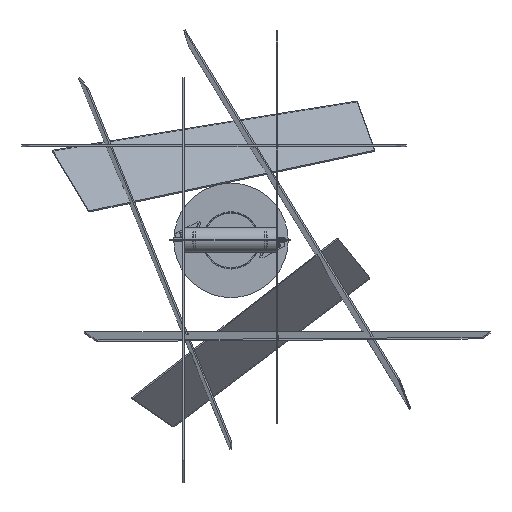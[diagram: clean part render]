
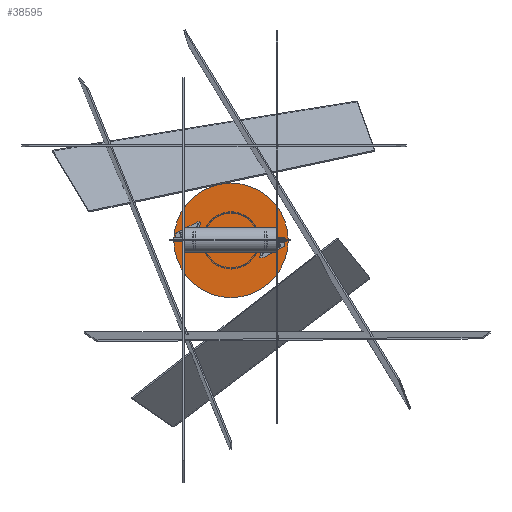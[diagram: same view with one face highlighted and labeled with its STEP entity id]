
A CAD part, front view. The second image highlights one B-rep face of the part: STEP entity #38595.
In plain terms, the highlighted planar face has unit normal (0, -1, 0).
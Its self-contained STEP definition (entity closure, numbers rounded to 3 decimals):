
#641 = DIRECTION ( 'NONE',  ( 1., 0., 0. ) ) ;
#1526 = VERTEX_POINT ( 'NONE', #2391 ) ;
#1601 = VERTEX_POINT ( 'NONE', #23940 ) ;
#2391 = CARTESIAN_POINT ( 'NONE',  ( -7.845, 1028.539, 34.847 ) ) ;
#2481 = CARTESIAN_POINT ( 'NONE',  ( -227.845, 1028.539, 34.847 ) ) ;
#2595 = AXIS2_PLACEMENT_3D ( 'NONE', #8925, #4545, #641 ) ;
#3303 = CIRCLE ( 'NONE', #36234, 5.25 ) ;
#3808 = AXIS2_PLACEMENT_3D ( 'NONE', #58109, #35011, #57515 ) ;
#3910 = VERTEX_POINT ( 'NONE', #57396 ) ;
#4545 = DIRECTION ( 'NONE',  ( 0., 1., 0. ) ) ;
#4698 = EDGE_CURVE ( 'NONE', #1601, #3910, #27366, .T. ) ;
#5387 = CARTESIAN_POINT ( 'NONE',  ( -184.845, 1028.539, 34.847 ) ) ;
#5847 = EDGE_CURVE ( 'NONE', #3910, #1601, #7972, .T. ) ;
#6331 = CARTESIAN_POINT ( 'NONE',  ( -46.845, 1028.539, 34.847 ) ) ;
#6702 = EDGE_CURVE ( 'NONE', #37576, #27388, #3303, .T. ) ;
#7389 = DIRECTION ( 'NONE',  ( 1., 0., 0. ) ) ;
#7972 = CIRCLE ( 'NONE', #26840, 4.5 ) ;
#8770 = AXIS2_PLACEMENT_3D ( 'NONE', #38862, #26217, #44188 ) ;
#8861 = DIRECTION ( 'NONE',  ( 1., 0., 0. ) ) ;
#8925 = CARTESIAN_POINT ( 'NONE',  ( -184.845, 1028.539, 34.847 ) ) ;
#10600 = EDGE_CURVE ( 'NONE', #40936, #16758, #37917, .T. ) ;
#12109 = EDGE_CURVE ( 'NONE', #34138, #45432, #43054, .T. ) ;
#12796 = FACE_OUTER_BOUND ( 'NONE', #55056, .T. ) ;
#12896 = CIRCLE ( 'NONE', #42913, 4. ) ;
#13996 = DIRECTION ( 'NONE',  ( 1., 0., 0. ) ) ;
#14495 = AXIS2_PLACEMENT_3D ( 'NONE', #47384, #16415, #20523 ) ;
#15467 = ORIENTED_EDGE ( 'NONE', *, *, #51252, .F. ) ;
#15626 = EDGE_CURVE ( 'NONE', #27388, #37576, #58194, .T. ) ;
#16210 = DIRECTION ( 'NONE',  ( 1., 0., 0. ) ) ;
#16415 = DIRECTION ( 'NONE',  ( 0., 1., 0. ) ) ;
#16758 = VERTEX_POINT ( 'NONE', #30489 ) ;
#17362 = EDGE_CURVE ( 'NONE', #39439, #1526, #25754, .T. ) ;
#17752 = PLANE ( 'NONE',  #35082 ) ;
#18411 = CARTESIAN_POINT ( 'NONE',  ( -129.845, 1028.539, 34.847 ) ) ;
#20523 = DIRECTION ( 'NONE',  ( 1., 0., 0. ) ) ;
#20884 = DIRECTION ( 'NONE',  ( 0., 1., 0. ) ) ;
#21187 = DIRECTION ( 'NONE',  ( 0., 1., 0. ) ) ;
#22338 = ORIENTED_EDGE ( 'NONE', *, *, #17362, .F. ) ;
#23508 = ORIENTED_EDGE ( 'NONE', *, *, #4698, .T. ) ;
#23940 = CARTESIAN_POINT ( 'NONE',  ( -125.345, 1028.539, 34.847 ) ) ;
#25754 = CIRCLE ( 'NONE', #8770, 110. ) ;
#25755 = FACE_BOUND ( 'NONE', #31033, .T. ) ;
#26042 = CARTESIAN_POINT ( 'NONE',  ( -117.845, 1028.539, 34.847 ) ) ;
#26217 = DIRECTION ( 'NONE',  ( 0., 1., 0. ) ) ;
#26219 = ORIENTED_EDGE ( 'NONE', *, *, #15626, .T. ) ;
#26840 = AXIS2_PLACEMENT_3D ( 'NONE', #18411, #54440, #13996 ) ;
#26924 = DIRECTION ( 'NONE',  ( 1., 0., 0. ) ) ;
#27138 = ORIENTED_EDGE ( 'NONE', *, *, #12109, .T. ) ;
#27366 = CIRCLE ( 'NONE', #3808, 4.5 ) ;
#27388 = VERTEX_POINT ( 'NONE', #33250 ) ;
#27426 = ORIENTED_EDGE ( 'NONE', *, *, #5847, .T. ) ;
#28328 = ORIENTED_EDGE ( 'NONE', *, *, #44964, .T. ) ;
#28368 = DIRECTION ( 'NONE',  ( 1., 0., 0. ) ) ;
#29310 = AXIS2_PLACEMENT_3D ( 'NONE', #5387, #41304, #28368 ) ;
#29442 = CARTESIAN_POINT ( 'NONE',  ( -50.845, 1028.539, 34.847 ) ) ;
#29447 = AXIS2_PLACEMENT_3D ( 'NONE', #46865, #20884, #16210 ) ;
#30489 = CARTESIAN_POINT ( 'NONE',  ( -54.845, 1028.539, 34.847 ) ) ;
#31033 = EDGE_LOOP ( 'NONE', ( #27138, #28328 ) ) ;
#31304 = CARTESIAN_POINT ( 'NONE',  ( -117.845, 1028.539, 34.847 ) ) ;
#33250 = CARTESIAN_POINT ( 'NONE',  ( -123.095, 1028.539, 34.847 ) ) ;
#33864 = DIRECTION ( 'NONE',  ( 0., 1., 0. ) ) ;
#34138 = VERTEX_POINT ( 'NONE', #49430 ) ;
#35011 = DIRECTION ( 'NONE',  ( 0., 1., 0. ) ) ;
#35045 = EDGE_LOOP ( 'NONE', ( #27426, #23508 ) ) ;
#35082 = AXIS2_PLACEMENT_3D ( 'NONE', #26042, #53514, #26924 ) ;
#36234 = AXIS2_PLACEMENT_3D ( 'NONE', #31304, #49310, #8861 ) ;
#37576 = VERTEX_POINT ( 'NONE', #49770 ) ;
#37917 = CIRCLE ( 'NONE', #29447, 4. ) ;
#38595 = ADVANCED_FACE ( 'NONE', ( #51746, #52915, #57949, #25755, #12796 ), #17752, .F. ) ;
#38862 = CARTESIAN_POINT ( 'NONE',  ( -117.845, 1028.539, 34.847 ) ) ;
#39439 = VERTEX_POINT ( 'NONE', #2481 ) ;
#39671 = CIRCLE ( 'NONE', #29310, 4. ) ;
#40002 = CIRCLE ( 'NONE', #14495, 110. ) ;
#40936 = VERTEX_POINT ( 'NONE', #6331 ) ;
#41304 = DIRECTION ( 'NONE',  ( 0., 1., 0. ) ) ;
#42057 = AXIS2_PLACEMENT_3D ( 'NONE', #43601, #21187, #7389 ) ;
#42847 = ORIENTED_EDGE ( 'NONE', *, *, #57675, .T. ) ;
#42913 = AXIS2_PLACEMENT_3D ( 'NONE', #29442, #33864, #48319 ) ;
#43054 = CIRCLE ( 'NONE', #2595, 4. ) ;
#43601 = CARTESIAN_POINT ( 'NONE',  ( -117.845, 1028.539, 34.847 ) ) ;
#44188 = DIRECTION ( 'NONE',  ( 1., 0., 0. ) ) ;
#44964 = EDGE_CURVE ( 'NONE', #45432, #34138, #39671, .T. ) ;
#45136 = EDGE_LOOP ( 'NONE', ( #54117, #42847 ) ) ;
#45365 = CARTESIAN_POINT ( 'NONE',  ( -188.845, 1028.539, 34.847 ) ) ;
#45432 = VERTEX_POINT ( 'NONE', #45365 ) ;
#46865 = CARTESIAN_POINT ( 'NONE',  ( -50.845, 1028.539, 34.847 ) ) ;
#47384 = CARTESIAN_POINT ( 'NONE',  ( -117.845, 1028.539, 34.847 ) ) ;
#48319 = DIRECTION ( 'NONE',  ( 1., 0., 0. ) ) ;
#49310 = DIRECTION ( 'NONE',  ( 0., 1., 0. ) ) ;
#49430 = CARTESIAN_POINT ( 'NONE',  ( -180.845, 1028.539, 34.847 ) ) ;
#49770 = CARTESIAN_POINT ( 'NONE',  ( -112.595, 1028.539, 34.847 ) ) ;
#51252 = EDGE_CURVE ( 'NONE', #1526, #39439, #40002, .T. ) ;
#51746 = FACE_BOUND ( 'NONE', #35045, .T. ) ;
#52915 = FACE_BOUND ( 'NONE', #53337, .T. ) ;
#53337 = EDGE_LOOP ( 'NONE', ( #56972, #26219 ) ) ;
#53514 = DIRECTION ( 'NONE',  ( 0., 1., 0. ) ) ;
#54117 = ORIENTED_EDGE ( 'NONE', *, *, #10600, .T. ) ;
#54440 = DIRECTION ( 'NONE',  ( 0., 1., 0. ) ) ;
#55056 = EDGE_LOOP ( 'NONE', ( #22338, #15467 ) ) ;
#56972 = ORIENTED_EDGE ( 'NONE', *, *, #6702, .T. ) ;
#57396 = CARTESIAN_POINT ( 'NONE',  ( -134.345, 1028.539, 34.847 ) ) ;
#57515 = DIRECTION ( 'NONE',  ( 1., 0., 0. ) ) ;
#57675 = EDGE_CURVE ( 'NONE', #16758, #40936, #12896, .T. ) ;
#57949 = FACE_BOUND ( 'NONE', #45136, .T. ) ;
#58109 = CARTESIAN_POINT ( 'NONE',  ( -129.845, 1028.539, 34.847 ) ) ;
#58194 = CIRCLE ( 'NONE', #42057, 5.25 ) ;
